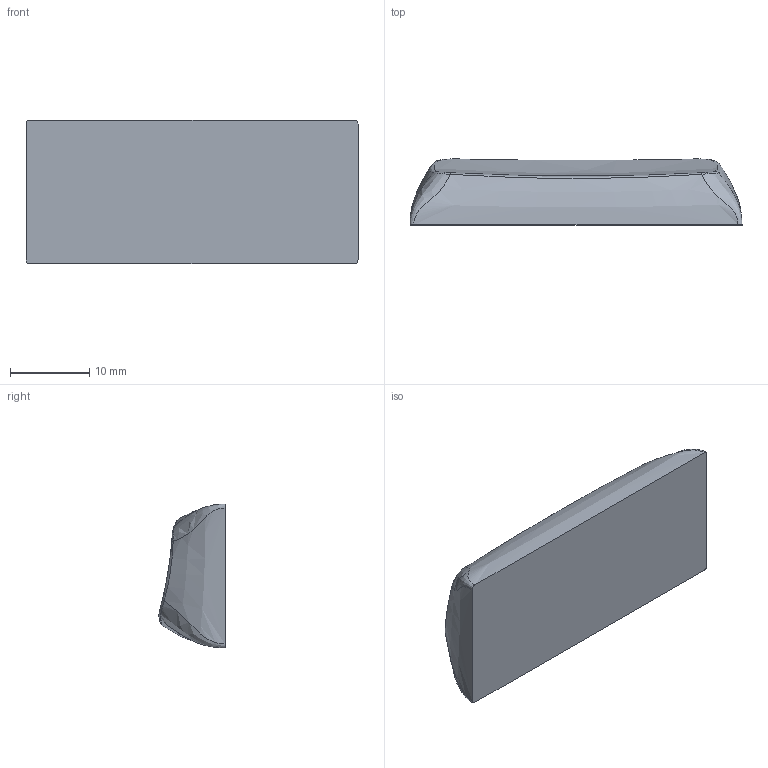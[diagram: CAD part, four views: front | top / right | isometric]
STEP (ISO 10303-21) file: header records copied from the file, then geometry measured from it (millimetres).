
FILE_DESCRIPTION (( 'STEP AP203' ), '1' );
FILE_NAME ('R4_2,25U_base_v3.2_GMK.STEP', '2023-03-07T10:13:28', ( '' ), ( '' ), 'SwSTEP 2.0', 'SolidWorks 2022', '' );
FILE_SCHEMA (( 'CONFIG_CONTROL_DESIGN' ));
Length unit declared in the file: millimetre
Products named in the file (1): R4_2,25U_base_v3.2_GMK
Bounding box: 42.01 x 8.38 x 18.2 mm (x, y, z)
Volume: 4638.7 mm3; surface area: 2099.8 mm2
Topology: 1 solids, 1 shells, 18 faces, 40 edges, 24 vertices
Faces by surface type: bspline 17, plane 1
Entity records: 3008 total; most frequent: CARTESIAN_POINT 2677, ORIENTED_EDGE 80, EDGE_CURVE 40, B_SPLINE_CURVE_WITH_KNOTS 36, VERTEX_POINT 24, FACE_OUTER_BOUND 18, ADVANCED_FACE 18, EDGE_LOOP 18
